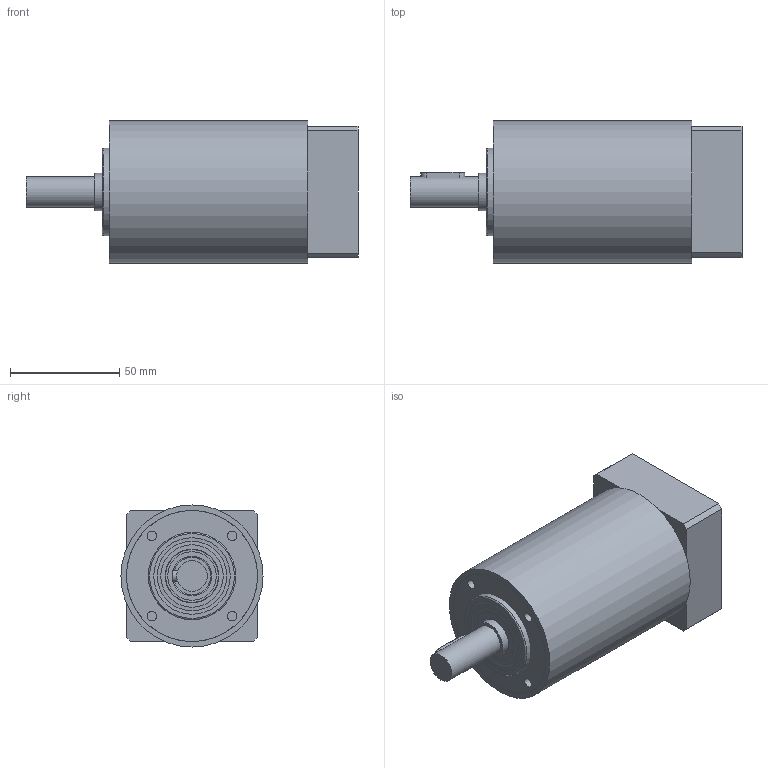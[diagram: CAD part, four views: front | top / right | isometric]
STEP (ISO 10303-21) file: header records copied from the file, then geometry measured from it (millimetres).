
FILE_DESCRIPTION(/* description */ (''),/* implementation_level */ '2;1');
FILE_NAME(/* name */ 'E00017964713MP040509091945_step214.stp',/* time_stamp */ '2009-05-04T09:22:32+02:00',/* author */ (''),/* organization */ (''),/* preprocessor_version */ 'ST-DEVELOPER v11',/* originating_system */ 'UGS - NX 5.0',/* authorisation */ '');
FILE_SCHEMA (('AUTOMOTIVE_DESIGN { 1 0 10303 214 0 1 1 1 }'));
Length unit declared in the file: millimetre
Products named in the file (1): E00017964713MP040509091945_M
Bounding box: 151.95 x 65 x 65 mm (x, y, z)
Volume: 441431.3 mm3; surface area: 78579.8 mm2
Topology: 12 solids, 12 shells, 139 faces, 293 edges, 186 vertices
Faces by surface type: cylinder 53, plane 50, cone 26, torus 10
Full cylindrical faces by diameter (mm): 3.432 x9, 4.351 x4, 4.5 x1, 7.5 x1, 9.75 x1, 14 x2, 17 x3, 22.2 x2, 24.5 x2, 32.9 x2, 35 x4, 35.5 x1, 40 x1, 43 x1, 50 x2, 57.4 x1, 59.85 x1, 60 x2, 65 x1
Entity records: 3341 total; most frequent: DIRECTION 592, CARTESIAN_POINT 581, ORIENTED_EDGE 384, AXIS2_PLACEMENT_3D 263, EDGE_LOOP 236, FACE_BOUND 206, EDGE_CURVE 192, VERTEX_POINT 170
